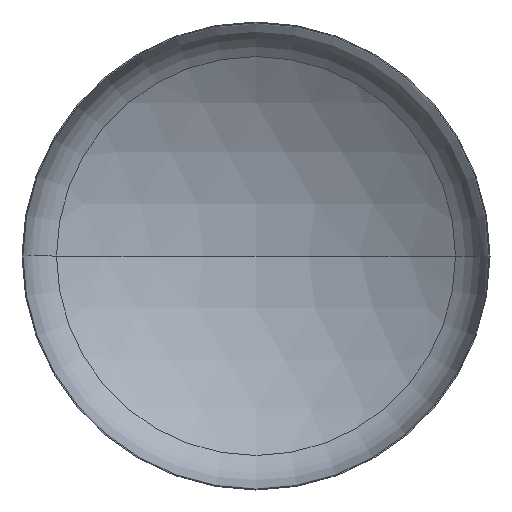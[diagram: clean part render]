
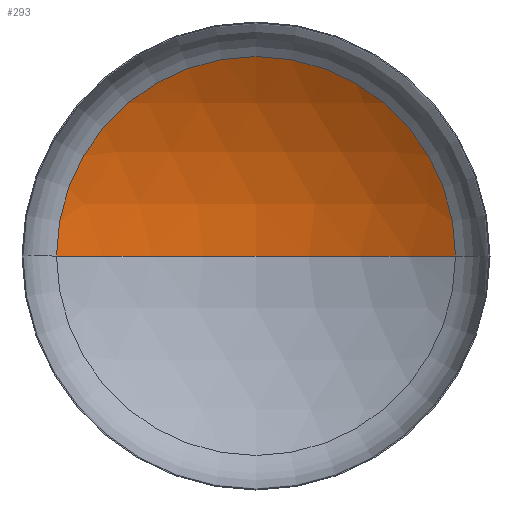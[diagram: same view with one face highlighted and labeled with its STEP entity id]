
A CAD part, front view. The second image highlights one B-rep face of the part: STEP entity #293.
In plain terms, the highlighted spherical face has radius 2080 mm.
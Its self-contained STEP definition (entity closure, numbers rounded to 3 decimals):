
#11 = DIRECTION ( 'NONE',  ( -1., 0., 0. ) ) ;
#16 = ORIENTED_EDGE ( 'NONE', *, *, #98, .T. ) ;
#17 = EDGE_LOOP ( 'NONE', ( #46, #16, #31 ) ) ;
#21 = AXIS2_PLACEMENT_3D ( 'NONE', #396, #61, #394 ) ;
#24 = DIRECTION ( 'NONE',  ( 0., 0., -1. ) ) ;
#31 = ORIENTED_EDGE ( 'NONE', *, *, #90, .T. ) ;
#42 = AXIS2_PLACEMENT_3D ( 'NONE', #207, #208, #228 ) ;
#43 = SPHERICAL_SURFACE ( 'NONE', #21, 2080. ) ;
#44 = AXIS2_PLACEMENT_3D ( 'NONE', #119, #24, #11 ) ;
#45 = AXIS2_PLACEMENT_3D ( 'NONE', #203, #204, #163 ) ;
#46 = ORIENTED_EDGE ( 'NONE', *, *, #115, .F. ) ;
#56 = VERTEX_POINT ( 'NONE', #375 ) ;
#61 = DIRECTION ( 'NONE',  ( 0., 0., -1. ) ) ;
#66 = VERTEX_POINT ( 'NONE', #369 ) ;
#90 = EDGE_CURVE ( 'NONE', #66, #56, #386, .T. ) ;
#98 = EDGE_CURVE ( 'NONE', #101, #66, #261, .T. ) ;
#101 = VERTEX_POINT ( 'NONE', #199 ) ;
#115 = EDGE_CURVE ( 'NONE', #101, #56, #382, .T. ) ;
#119 = CARTESIAN_POINT ( 'NONE',  ( 0., -1401.751, 0. ) ) ;
#163 = DIRECTION ( 'NONE',  ( 1., 0., 0. ) ) ;
#199 = CARTESIAN_POINT ( 'NONE',  ( 0., 678.249, 0. ) ) ;
#203 = CARTESIAN_POINT ( 'NONE',  ( 0., 358.512, 0. ) ) ;
#204 = DIRECTION ( 'NONE',  ( 0., -1., 0. ) ) ;
#207 = CARTESIAN_POINT ( 'NONE',  ( 0., -1401.751, 0. ) ) ;
#208 = DIRECTION ( 'NONE',  ( 0., 0., 1. ) ) ;
#228 = DIRECTION ( 'NONE',  ( 1., 0., 0. ) ) ;
#261 = CIRCLE ( 'NONE', #44, 2080. ) ;
#293 = ADVANCED_FACE ( 'NONE', ( #305 ), #43, .F. ) ;
#305 = FACE_OUTER_BOUND ( 'NONE', #17, .T. ) ;
#369 = CARTESIAN_POINT ( 'NONE',  ( 1108.095, 358.512, 0. ) ) ;
#375 = CARTESIAN_POINT ( 'NONE',  ( -1108.095, 358.512, 0. ) ) ;
#382 = CIRCLE ( 'NONE', #42, 2080. ) ;
#386 = CIRCLE ( 'NONE', #45, 1108.095 ) ;
#394 = DIRECTION ( 'NONE',  ( -1., 0., 0. ) ) ;
#396 = CARTESIAN_POINT ( 'NONE',  ( 0., -1401.751, 0. ) ) ;
